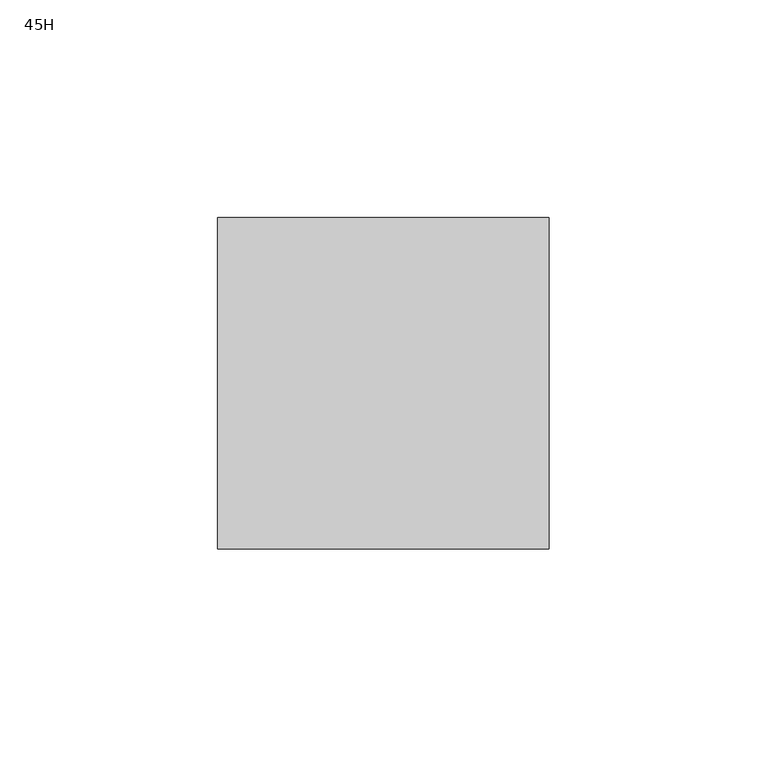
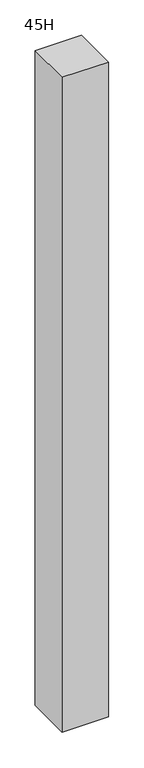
"""IFC4 building model written with IfcOpenShell, lengths in millimetres: furniture geometry, Steelcase - Montage - Junction - L Square - Same-Height : 45H."""

import ifcopenshell
import ifcopenshell.guid

model = None  # the IFC model being written
_history = None  # IfcOwnerHistory: only IFC2X3 demands one
_inside = {}  # id of a spatial element -> (the spatial element, [elements in it])
_under = {}  # id of a project, library or spatial element -> (it, [spatial elements below it])
_declared = {}  # id of a project -> (the project, [libraries it declares])
_typed = {}  # id of a type object -> (the type object, [elements of that type])
_made_of = {}  # id of a material, layer set ... -> (it, [elements and type objects made of it])


def new_model(schema):
    """Start an empty IFC model of exactly this schema.

    Asked for "IFC4X3", IfcOpenShell would pick the latest addendum, in which some entities
    have other attributes; the version numbers below select the first issue.
    IFC2X3 requires an IfcOwnerHistory on every rooted entity: one is made here for all.
    """
    global model, _history
    if schema == "IFC4X3":
        model = ifcopenshell.file(schema_version=(4, 3, 0, 0))
    else:
        model = ifcopenshell.file(schema=schema)
    _inside.clear()
    _under.clear()
    _declared.clear()
    _typed.clear()
    _made_of.clear()
    _history = None
    if model.schema == "IFC2X3":
        org = make("IfcOrganization", Name="unknown")
        user = make(
            "IfcPersonAndOrganization",
            ThePerson=make("IfcPerson", FamilyName="unknown"),
            TheOrganization=org,
        )
        app = make(
            "IfcApplication",
            ApplicationDeveloper=org,
            Version="unknown",
            ApplicationFullName="unknown",
            ApplicationIdentifier="unknown",
        )
        _history = make(
            "IfcOwnerHistory",
            OwningUser=user,
            OwningApplication=app,
            ChangeAction="ADDED",
            CreationDate=0,
        )
    return model


def make(cls, **values):
    """One entity of the class cls with the attributes given. An attribute that is None is left unset."""
    return model.create_entity(
        cls, **{name: value for name, value in values.items() if value is not None}
    )


def rooted(cls, **values):
    """An entity with a GlobalId (a new one), such as an element, a storey or a relation."""
    return make(cls, GlobalId=ifcopenshell.guid.new(), OwnerHistory=_history, **values)


def si_unit(unit_type, name, prefix=None):
    """IfcSIUnit, for example si_unit("LENGTHUNIT", "METRE", prefix="MILLI")."""
    return make("IfcSIUnit", UnitType=unit_type, Prefix=prefix, Name=name)


def assignment(units):
    """IfcUnitAssignment: the units of a project."""
    return None if units is None else make("IfcUnitAssignment", Units=units)


def point(xyz):
    """IfcCartesianPoint."""
    return None if xyz is None else make("IfcCartesianPoint", Coordinates=xyz)


def direction(xyz):
    """IfcDirection."""
    return None if xyz is None else make("IfcDirection", DirectionRatios=xyz)


def frame(location, z_axis=None, x_axis=None):
    """IfcAxis2Placement3D, a coordinate frame: its origin and axes. An axis left out is left unset."""
    return make(
        "IfcAxis2Placement3D",
        Location=point(location),
        Axis=direction(z_axis),
        RefDirection=direction(x_axis),
    )


def origin():
    """The frame at (0, 0, 0) with its axes left unset."""
    return frame((0.0, 0.0, 0.0))


def place(relative_to, where):
    """IfcLocalPlacement: puts the frame where relative to a parent placement (None: the world)."""
    return make(
        "IfcLocalPlacement", PlacementRelTo=relative_to, RelativePlacement=where
    )


def context(
    kind, dimensions, precision=None, world=None, true_north=None, identifier=None
):
    """IfcGeometricRepresentationContext, for example the 3D "Model" context."""
    return make(
        "IfcGeometricRepresentationContext",
        ContextIdentifier=identifier,
        ContextType=kind,
        CoordinateSpaceDimension=dimensions,
        Precision=precision,
        WorldCoordinateSystem=world,
        TrueNorth=true_north,
    )


def project(units=None, contexts=None):
    """IfcProject with its units and contexts."""
    return rooted(
        "IfcProject",
        Name="project",
        RepresentationContexts=contexts,
        UnitsInContext=assignment(units),
    )


def spatial(cls, under=None, at=None, **own):
    """A site, building, storey or space (cls), placed at a placement, below another one or the project."""
    s = rooted(cls, ObjectPlacement=at, **own)
    if under is not None:
        _under.setdefault(under.id(), (under, []))[1].append(s)
    return s


def polyline(points):
    """IfcPolyline through the points."""
    return make("IfcPolyline", Points=[point(p) for p in points])


def outline(outer, holes=None, kind="AREA"):
    """IfcArbitraryClosedProfileDef: a profile drawn as a closed curve; with holes, ...WithVoids."""
    if holes is None:
        return make("IfcArbitraryClosedProfileDef", ProfileType=kind, OuterCurve=outer)
    return make(
        "IfcArbitraryProfileDefWithVoids",
        ProfileType=kind,
        OuterCurve=outer,
        InnerCurves=holes,
    )


def extrude(swept, where, along, depth):
    """IfcExtrudedAreaSolid: the profile swept, set in the frame where, extruded along a direction by depth."""
    return make(
        "IfcExtrudedAreaSolid",
        SweptArea=swept,
        Position=where,
        ExtrudedDirection=direction(along),
        Depth=depth,
    )


def shape(context_of_items, identifier, shape_type, items):
    """IfcShapeRepresentation: the items that make up one representation, for example the "Body"."""
    return make(
        "IfcShapeRepresentation",
        ContextOfItems=context_of_items,
        RepresentationIdentifier=identifier,
        RepresentationType=shape_type,
        Items=items,
    )


def source(mapping_origin, context_of_items, identifier, shape_type, items):
    """IfcRepresentationMap: a shape defined once, which mapped items show again and again."""
    return make(
        "IfcRepresentationMap",
        MappingOrigin=mapping_origin,
        MappedRepresentation=shape(context_of_items, identifier, shape_type, items),
    )


def transform(
    local_origin,
    x_axis=None,
    y_axis=None,
    z_axis=None,
    scale=None,
    scale2=None,
    scale3=None,
    uniform=True,
):
    """IfcCartesianTransformationOperator3D, or its non-uniform kind. x_axis, y_axis, z_axis: its Axis1, 2, 3."""
    if uniform:
        return make(
            "IfcCartesianTransformationOperator3D",
            Axis1=direction(x_axis),
            Axis2=direction(y_axis),
            LocalOrigin=point(local_origin),
            Scale=scale,
            Axis3=direction(z_axis),
        )
    return make(
        "IfcCartesianTransformationOperator3DnonUniform",
        Axis1=direction(x_axis),
        Axis2=direction(y_axis),
        LocalOrigin=point(local_origin),
        Scale=scale,
        Axis3=direction(z_axis),
        Scale2=scale2,
        Scale3=scale3,
    )


def mapped(mapping_source, mapping_target):
    """IfcMappedItem: shows the shape of a source again, moved by a transform."""
    return make(
        "IfcMappedItem", MappingSource=mapping_source, MappingTarget=mapping_target
    )


def made_of(thing, what):
    """Note that an element or type object is made of a material, layer set ...; save() writes the relation."""
    if what is not None:
        _made_of.setdefault(what.id(), (what, []))[1].append(thing)
    return thing


def element(
    cls,
    number,
    at=None,
    inside=None,
    cuts=None,
    type_object=None,
    material=None,
    context=None,
    identifier="Body",
    shape_type=None,
    held_by="IfcProductDefinitionShape",
    body=None,
    shapes=None,
    **own,
):
    """One element of the class cls, such as IfcWall. Its Tag is "e" and its number.

    at: its placement. inside: the storey or other place that contains it. cuts: it is an
    opening in that element (IfcRelVoidsElement). A single representation is given by context,
    identifier, shape_type and body (its items); several are given by shapes. held_by: the class
    of the entity that holds the representations. save() writes the other relations.
    """
    e = rooted(cls, Tag="e%d" % number, ObjectPlacement=at, **own)
    if body is not None:
        shapes = [shape(context, identifier, shape_type, body)]
    if shapes is not None:
        e.Representation = make(held_by, Representations=shapes)
    if inside is not None:
        _inside.setdefault(inside.id(), (inside, []))[1].append(e)
    if cuts is not None:
        rooted(
            "IfcRelVoidsElement", RelatingBuildingElement=cuts, RelatedOpeningElement=e
        )
    if type_object is not None:
        _typed.setdefault(type_object.id(), (type_object, []))[1].append(e)
    return made_of(e, material)


def aggregate(whole, parts):
    """IfcRelAggregates: a whole, such as a stair, and the parts it consists of."""
    return rooted("IfcRelAggregates", RelatingObject=whole, RelatedObjects=parts)


def save(model, path):
    """Write the relations noted so far, then the file.

    IfcRelAggregates (storeys below a building ...), IfcRelContainedInSpatialStructure (elements
    in a storey), IfcRelDefinesByType, IfcRelAssociatesMaterial and IfcRelDeclares: one each for
    every whole, place, type object, material and project.
    """
    for whole, parts in _under.values():
        aggregate(whole, parts)
    for where, things in _inside.values():
        rooted(
            "IfcRelContainedInSpatialStructure",
            RelatedElements=things,
            RelatingStructure=where,
        )
    for kind, things in _typed.values():
        rooted("IfcRelDefinesByType", RelatedObjects=things, RelatingType=kind)
    for what, things in _made_of.values():
        rooted("IfcRelAssociatesMaterial", RelatedObjects=things, RelatingMaterial=what)
    for by, libraries in _declared.values():
        rooted("IfcRelDeclares", RelatingContext=by, RelatedDefinitions=libraries)
    model.write(path)


def furniture_45h_3cfd8690(model_context):
    return source(origin(), model_context, "Body", "SweptSolid", [
        extrude(outline(polyline([(533.4, -38.1000015), (457.2, -38.1000015), (457.2, 38.1000015), (533.4, 38.1000015), (533.4, -38.1000015)])), frame((0.0, 0.0, 4.064), z_axis=(0.0, 0.0, 1.0), x_axis=(1.0, 0.0, 0.0)), (0.0, 0.0, 1.0), 1132.586),
    ])


if __name__ == "__main__":
    model = new_model("IFC4")
    model_context = context("Model", 3, world=origin())
    ifc_project = project(units=[si_unit("LENGTHUNIT", "METRE", prefix="MILLI")], contexts=[model_context])
    site = spatial("IfcSite", under=ifc_project)
    building = spatial("IfcBuilding", under=site)
    placement = place(None, origin())
    furniture_45h_shape = furniture_45h_3cfd8690(model_context)
    element("IfcFurniture", 1, ObjectType="Steelcase - Montage - Junction - L Square - Same-Height : 45H", at=placement, inside=building, context=model_context, shape_type="MappedRepresentation", body=[
        mapped(furniture_45h_shape, transform((0.0, 0.0, 0.0), x_axis=(1.0, 0.0, 0.0), y_axis=(0.0, 1.0, 0.0), z_axis=(0.0, 0.0, 1.0))),
    ])
    save(model, "model.ifc")
